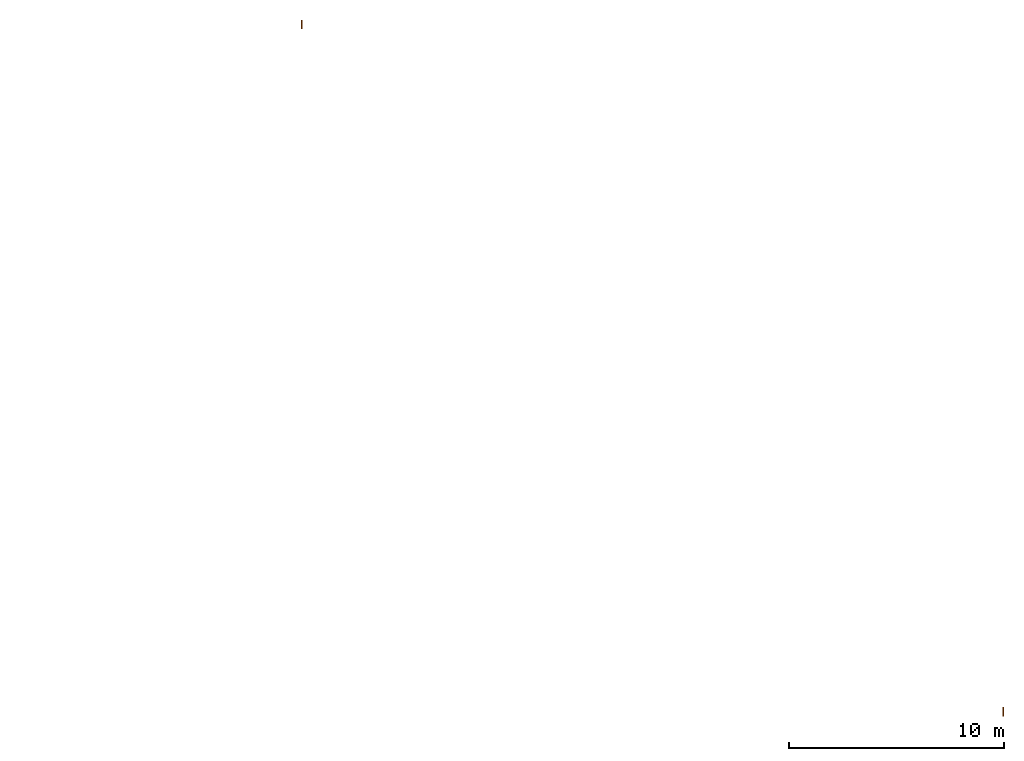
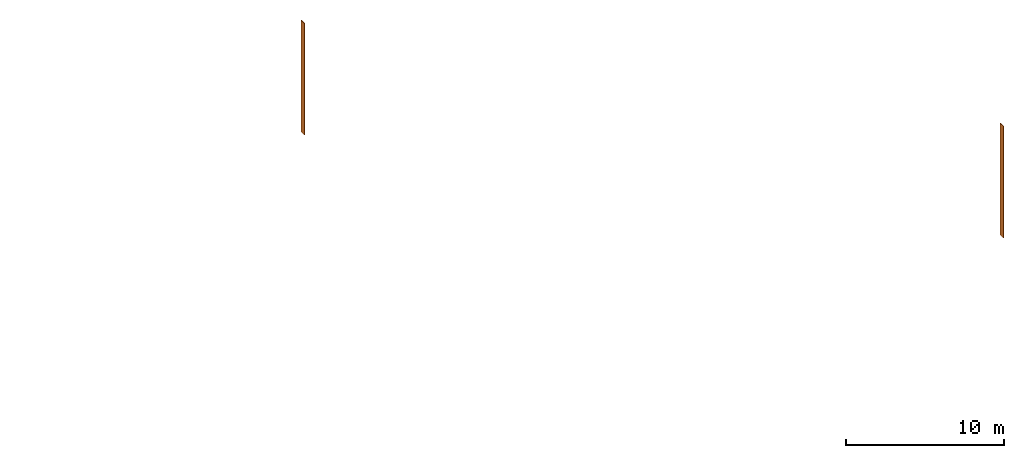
# One storey, part 3 of 3: 2 proxies.
"""IFC2X3 building model written with IfcOpenShell, lengths in centimetres."""

from ifc_helpers import new_model, entity, si_unit, converted_unit, derived_unit, direction, frame, frame_2d, origin, place, context, subcontext, project, spatial, rectangle, extrude, source, transform, mapped, material, type_object, type_shapes, element, save


model = new_model("IFC2X3")

# Units and contexts
model_context = context("Model", 3, precision=0.001, world=origin(), true_north=direction((6.12303176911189e-17, 1.0)))
body_context = subcontext(model_context, "Body", "Model", "MODEL_VIEW")
ifc_project = project(units=[si_unit("LENGTHUNIT", "METRE", prefix="CENTI"), si_unit("AREAUNIT", "SQUARE_METRE"), si_unit("VOLUMEUNIT", "CUBIC_METRE"), converted_unit("PLANEANGLEUNIT", "DEGREE", entity("IfcRatioMeasure", 0.0174532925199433), si_unit("PLANEANGLEUNIT", "RADIAN"), dimensions=[0, 0, 0, 0, 0, 0, 0]), si_unit("MASSUNIT", "GRAM", prefix="KILO"), derived_unit("MASSDENSITYUNIT", [(si_unit("MASSUNIT", "GRAM", prefix="KILO"), 1), (si_unit("LENGTHUNIT", "METRE"), -3)]), si_unit("TIMEUNIT", "SECOND"), si_unit("FREQUENCYUNIT", "HERTZ"), si_unit("THERMODYNAMICTEMPERATUREUNIT", "DEGREE_CELSIUS"), derived_unit("THERMALTRANSMITTANCEUNIT", [(si_unit("MASSUNIT", "GRAM", prefix="KILO"), 1), (si_unit("THERMODYNAMICTEMPERATUREUNIT", "KELVIN"), -1), (si_unit("TIMEUNIT", "SECOND"), -3)]), derived_unit("VOLUMETRICFLOWRATEUNIT", [(si_unit("LENGTHUNIT", "METRE"), 3), (si_unit("TIMEUNIT", "SECOND"), -1)]), si_unit("ELECTRICCURRENTUNIT", "AMPERE"), si_unit("ELECTRICVOLTAGEUNIT", "VOLT"), si_unit("POWERUNIT", "WATT"), si_unit("FORCEUNIT", "NEWTON", prefix="KILO"), si_unit("ILLUMINANCEUNIT", "LUX"), si_unit("LUMINOUSFLUXUNIT", "LUMEN"), si_unit("LUMINOUSINTENSITYUNIT", "CANDELA"), derived_unit("USERDEFINED", [(si_unit("MASSUNIT", "GRAM", prefix="KILO"), -1), (si_unit("LENGTHUNIT", "METRE"), -2), (si_unit("TIMEUNIT", "SECOND"), 3), (si_unit("LUMINOUSFLUXUNIT", "LUMEN"), 1)]), derived_unit("LINEARVELOCITYUNIT", [(si_unit("LENGTHUNIT", "METRE"), 1), (si_unit("TIMEUNIT", "SECOND"), -1)]), si_unit("PRESSUREUNIT", "PASCAL"), derived_unit("USERDEFINED", [(si_unit("LENGTHUNIT", "METRE"), -2), (si_unit("MASSUNIT", "GRAM", prefix="KILO"), 1), (si_unit("TIMEUNIT", "SECOND"), -2)])], contexts=[model_context])

# Site, building, storey
site_placement = place(None, frame((-2781.94577612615, 7442.24238424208, 0.0)))
site = spatial("IfcSite", under=ifc_project, at=site_placement, Name="Default", CompositionType="ELEMENT")
building_placement = place(site_placement, origin())
building = spatial("IfcBuilding", under=site, at=building_placement, CompositionType="ELEMENT")
storey_placement = place(building_placement, frame((0.0, 0.0, 317.500000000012)))
storey = spatial("IfcBuildingStorey", under=building, at=storey_placement, Name="Toiture - Infirmerie", CompositionType="ELEMENT", Elevation=317.500000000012)

# Proxies
ifc_material = material(Name="Aluminium")
building_element_proxy_type_1 = type_object("IfcBuildingElementProxyType", Name="Menneau extrémité façade", PredefinedType="NOTDEFINED", material=ifc_material)
shared_shape_1 = source(origin(), body_context, "Body", "SweptSolid", [
    extrude(rectangle(XDim=4.99999684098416, YDim=40.0000000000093, at=frame_2d((0.0, 1.08357767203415e-13), x_axis=(1.0, 0.0))), frame((-392.499881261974, -1070.0, 313.0), z_axis=(0.0, 0.0, 1.0), x_axis=(-1.0, 0.0, 0.0)), (0.0, 0.0, 1.0), 862.99999999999),
])
type_shapes(building_element_proxy_type_1, [shared_shape_1])
proxy_1_placement = place(storey_placement, frame((-3258.0, 1100.0, -317.500000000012)))
element("IfcBuildingElementProxy", 1, at=proxy_1_placement, inside=storey, type_object=building_element_proxy_type_1, material=ifc_material, Name="Menneau extrémité façade2:Menneau extrémité façade", ObjectType="Menneau extrémité façade2:Menneau extrémité façade", context=body_context, shape_type="MappedRepresentation", body=[
    mapped(shared_shape_1, transform((0.0, 0.0, 0.0), scale=1.0)),
])
building_element_proxy_type_2 = type_object("IfcBuildingElementProxyType", Name="Menneau extrémité façade", PredefinedType="NOTDEFINED", material=ifc_material)
shared_shape_2 = source(origin(), body_context, "Body", "SweptSolid", [
    extrude(rectangle(XDim=4.99999684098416, YDim=40.0000000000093, at=frame_2d((0.0, 1.08357767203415e-13), x_axis=(1.0, 0.0))), frame((-392.499881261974, -1070.0, 313.0), z_axis=(0.0, 0.0, 1.0), x_axis=(-1.0, 0.0, 0.0)), (0.0, 0.0, 1.0), 863.000000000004),
])
type_shapes(building_element_proxy_type_2, [shared_shape_2])
proxy_2_placement = place(storey_placement, frame((0.0, -2090.31349968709, -317.500000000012)))
element("IfcBuildingElementProxy", 2, at=proxy_2_placement, inside=storey, type_object=building_element_proxy_type_2, material=ifc_material, Name="Menneau extrémité façade7:Menneau extrémité façade", ObjectType="Menneau extrémité façade7:Menneau extrémité façade", context=body_context, shape_type="MappedRepresentation", body=[
    mapped(shared_shape_2, transform((0.0, 0.0, 0.0), scale=1.0)),
])

save(model, "model.ifc")
